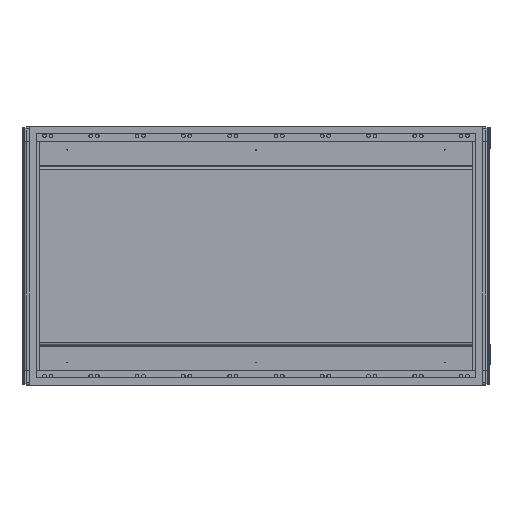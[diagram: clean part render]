
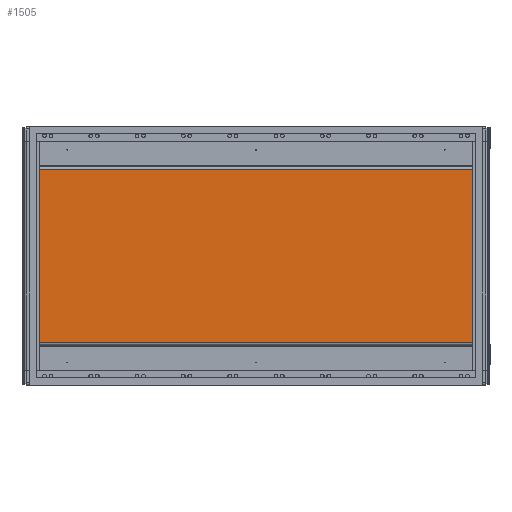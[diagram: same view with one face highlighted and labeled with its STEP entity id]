
A CAD part, top view. The second image highlights one B-rep face of the part: STEP entity #1505.
In plain terms, the highlighted planar face has unit normal (0, 0, 1).
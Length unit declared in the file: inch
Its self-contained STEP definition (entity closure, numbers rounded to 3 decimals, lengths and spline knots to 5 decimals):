
#728 = EDGE_LOOP ( 'NONE', ( #11370, #11371, #11372, #11373 ) ) ;
#1384 = VERTEX_POINT ( 'NONE', #3355 ) ;
#1396 = VERTEX_POINT ( 'NONE', #3367 ) ;
#1505 = ADVANCED_FACE ( 'NONE', ( #3962 ), #3822, .F. ) ;
#3355 = CARTESIAN_POINT ( 'NONE',  ( 19.557, -7.384, 0.128 ) ) ;
#3367 = CARTESIAN_POINT ( 'NONE',  ( -19.557, 7.384, 0.128 ) ) ;
#3820 = CARTESIAN_POINT ( 'NONE',  ( 19.557, 7.464, 0.128 ) ) ;
#3822 = PLANE ( 'NONE',  #3988 ) ;
#3825 = DIRECTION ( 'NONE',  ( 0., 0., -1. ) ) ;
#3826 = DIRECTION ( 'NONE',  ( -1., 0., 0. ) ) ;
#3962 = FACE_OUTER_BOUND ( 'NONE', #728, .T. ) ;
#3988 = AXIS2_PLACEMENT_3D ( 'NONE', #3820, #3825, #3826 ) ;
#5500 = CARTESIAN_POINT ( 'NONE',  ( 19.557, 7.464, 0.128 ) ) ;
#5510 = DIRECTION ( 'NONE',  ( 0., -1., 0. ) ) ;
#5626 = VECTOR ( 'NONE', #5510, 39.37008 ) ;
#5629 = LINE ( 'NONE', #5500, #5626 ) ;
#6035 = CARTESIAN_POINT ( 'NONE',  ( 19.557, -7.384, 0.128 ) ) ;
#6037 = CARTESIAN_POINT ( 'NONE',  ( 19.557, 7.384, 0.128 ) ) ;
#6038 = DIRECTION ( 'NONE',  ( -1., 0., 0. ) ) ;
#6040 = DIRECTION ( 'NONE',  ( -1., 0., 0. ) ) ;
#6093 = CARTESIAN_POINT ( 'NONE',  ( -19.557, 7.464, 0.128 ) ) ;
#6099 = DIRECTION ( 'NONE',  ( 0., -1., 0. ) ) ;
#6137 = LINE ( 'NONE', #6035, #6145 ) ;
#6143 = LINE ( 'NONE', #6037, #6144 ) ;
#6144 = VECTOR ( 'NONE', #6038, 39.37008 ) ;
#6145 = VECTOR ( 'NONE', #6040, 39.37008 ) ;
#6166 = VECTOR ( 'NONE', #6099, 39.37008 ) ;
#6182 = LINE ( 'NONE', #6093, #6166 ) ;
#8365 = CARTESIAN_POINT ( 'NONE',  ( -19.557, -7.384, 0.128 ) ) ;
#8382 = CARTESIAN_POINT ( 'NONE',  ( 19.557, 7.384, 0.128 ) ) ;
#10186 = EDGE_CURVE ( 'NONE', #12009, #1384, #5629, .T. ) ;
#10290 = EDGE_CURVE ( 'NONE', #12009, #1396, #6143, .T. ) ;
#10291 = EDGE_CURVE ( 'NONE', #1384, #11992, #6137, .T. ) ;
#10315 = EDGE_CURVE ( 'NONE', #1396, #11992, #6182, .T. ) ;
#11370 = ORIENTED_EDGE ( 'NONE', *, *, #10315, .T. ) ;
#11371 = ORIENTED_EDGE ( 'NONE', *, *, #10291, .F. ) ;
#11372 = ORIENTED_EDGE ( 'NONE', *, *, #10186, .F. ) ;
#11373 = ORIENTED_EDGE ( 'NONE', *, *, #10290, .T. ) ;
#11992 = VERTEX_POINT ( 'NONE', #8365 ) ;
#12009 = VERTEX_POINT ( 'NONE', #8382 ) ;
